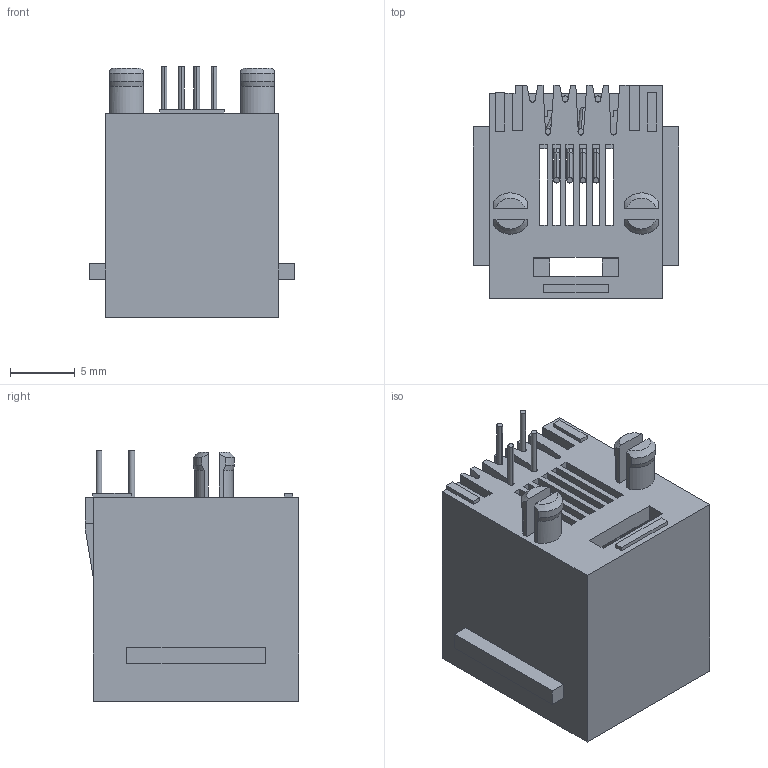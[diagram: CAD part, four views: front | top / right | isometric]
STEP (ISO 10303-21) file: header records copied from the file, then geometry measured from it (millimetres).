
FILE_DESCRIPTION((''),'2;1');
FILE_NAME('DGKYD5222E1166IWA1DY1017_1_1','2020-10-12T15:51:59',('Administrator'),(''),'CREO PARAMETRIC BY PTC INC, 2018400','CREO PARAMETRIC BY PTC INC, 2018400','');
FILE_SCHEMA(('CONFIG_CONTROL_DESIGN'));
Length unit declared in the file: millimetre
Products named in the file (1): DGKYD5222E1166IWA1DY1017_1_1
Bounding box: 15.95 x 16.5 x 19.4 mm (x, y, z)
Volume: 1891.5 mm3; surface area: 2659.8 mm2
Topology: 1 solids, 1 shells, 341 faces, 1058 edges, 710 vertices
Faces by surface type: plane 247, cylinder 70, torus 16, cone 8
Entity records: 12051 total; most frequent: CARTESIAN_POINT 2449, ORIENTED_EDGE 2116, DIRECTION 1868, EDGE_CURVE 1058, VECTOR 796, LINE 796, VERTEX_POINT 710, AXIS2_PLACEMENT_3D 536
